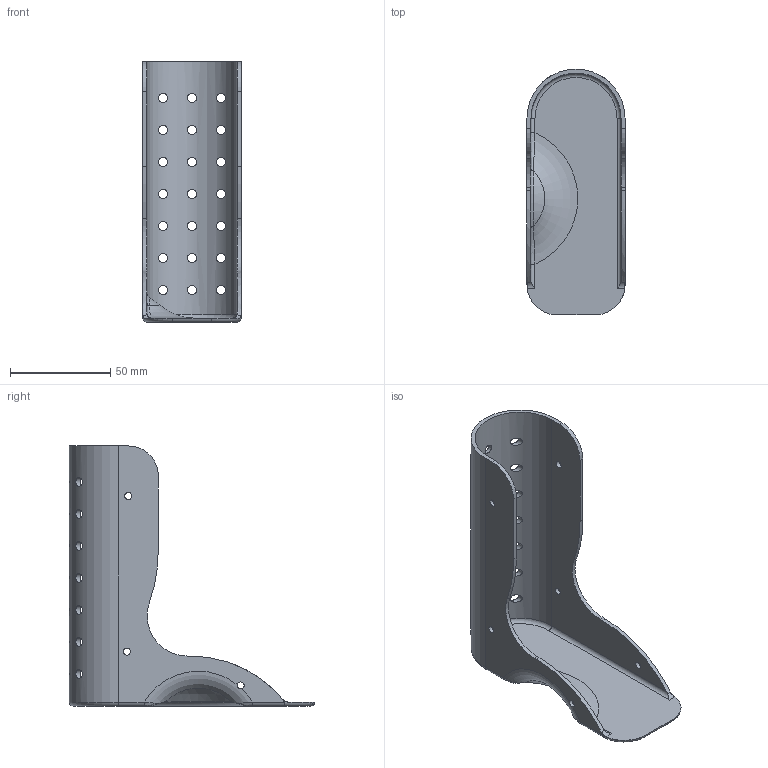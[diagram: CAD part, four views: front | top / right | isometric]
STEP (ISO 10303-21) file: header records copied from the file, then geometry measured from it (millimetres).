
FILE_DESCRIPTION(/* description */ (''),/* implementation_level */ '2;1');
FILE_NAME(/* name */ 'AFO size s left foot.step',/* time_stamp */ '2025-11-06T09:11:55+01:00',/* author */ (''),/* organization */ (''),/* preprocessor_version */ 'ST-DEVELOPER v20.1',/* originating_system */ 'Autodesk Translation Framework v14.17.0.0',/* authorisation */ '');
FILE_SCHEMA (('AUTOMOTIVE_DESIGN { 1 0 10303 214 3 1 1 }'));
Length unit declared in the file: millimetre
Products named in the file (1): 2025-10-02-12-56-12-317
Bounding box: 49 x 122.7 x 130 mm (x, y, z)
Volume: 43467.6 mm3; surface area: 44413.1 mm2
Topology: 1 solids, 1 shells, 72 faces, 278 edges, 207 vertices
Faces by surface type: cylinder 46, plane 11, torus 9, bspline 4, sphere 2
Full cylindrical faces by diameter (mm): 3.5 x6, 4.5 x21
Entity records: 4685 total; most frequent: CARTESIAN_POINT 2393, ORIENTED_EDGE 556, DIRECTION 337, EDGE_CURVE 278, VERTEX_POINT 207, B_SPLINE_CURVE_WITH_KNOTS 142, AXIS2_PLACEMENT_3D 132, EDGE_LOOP 125
